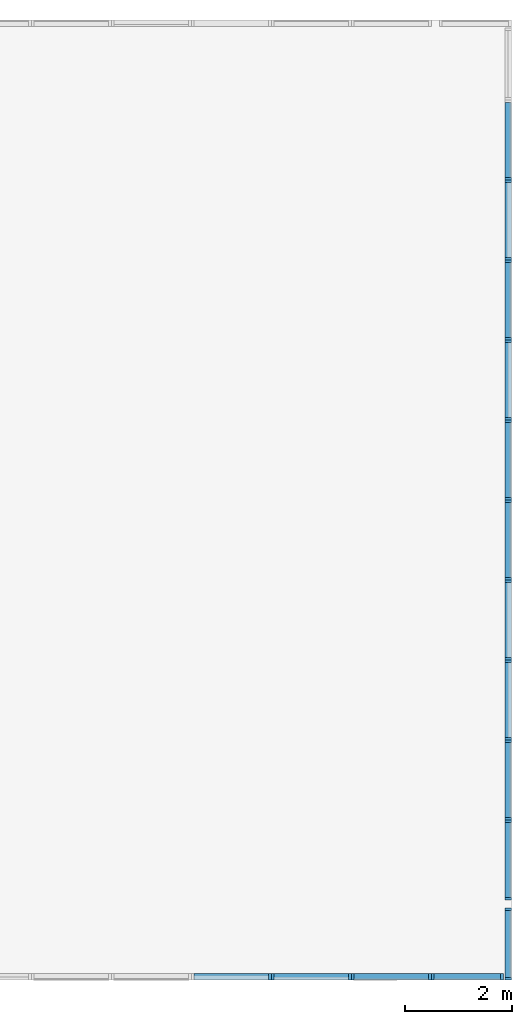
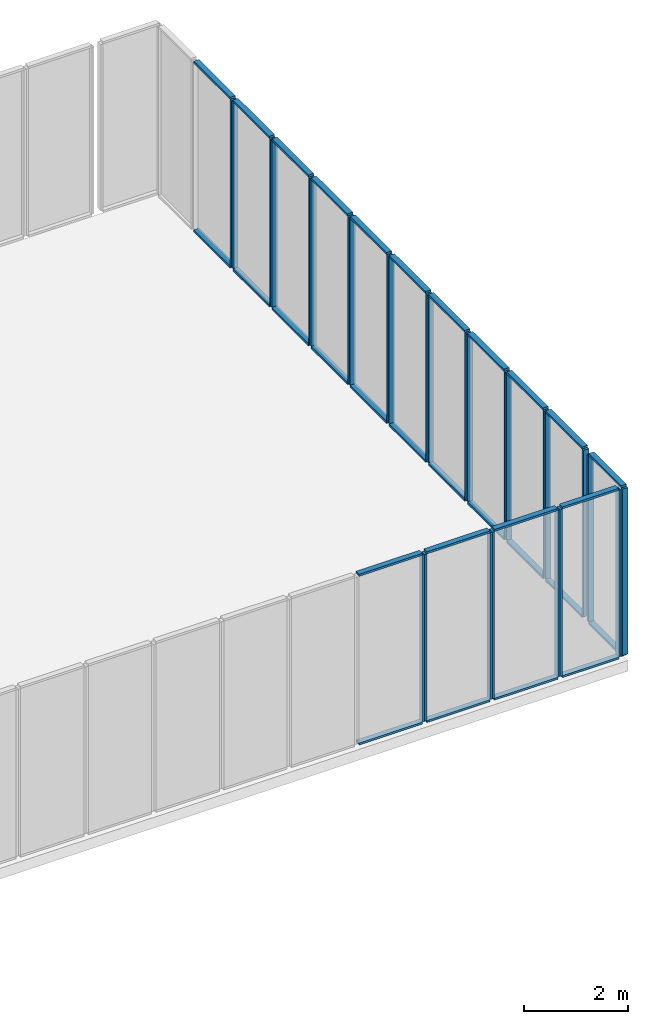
# One storey, part 2 of 4: 58 members.
"""IFC4 building model written with IfcOpenShell, lengths in metres."""

from ifc_helpers import new_model, si_unit, frame, origin_with_axes, place, context, subcontext, project, spatial, indexed_curve, outline, extrude, material, element, save


model = new_model("IFC4")

# Units and contexts
model_context = context("Model", 3, precision=1e-05, world=origin_with_axes())
body_context = subcontext(model_context, "Body", "Model", "MODEL_VIEW")
ifc_project = project(units=[si_unit("AREAUNIT", "SQUARE_METRE"), si_unit("VOLUMEUNIT", "CUBIC_METRE"), si_unit("LENGTHUNIT", "METRE")], contexts=[model_context])

# Site, building, storey
site = spatial("IfcSite", under=ifc_project, Name="Synthetic Site")
building = spatial("IfcBuilding", under=site, Name="Complex Tower")
storey_placement = place(None, frame((0.0, 0.0, 8.4), z_axis=(0.0, 0.0, 1.0), x_axis=(1.0, 0.0, 0.0)))
storey = spatial("IfcBuildingStorey", under=building, at=storey_placement, Name="L03", Elevation=8.4)

# Members
ifc_material = material(Name="Aluminium")
member_1_placement = place(storey_placement, frame((22.45, 0.0, 0.15000000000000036), z_axis=(0.0, 0.0, 1.0), x_axis=(1.0, 0.0, 0.0)))
element("IfcMember", 1, at=member_1_placement, inside=storey, material=ifc_material, Name="CT-L03-S-015-MR", PredefinedType="MULLION", context=body_context, shape_type="SweptSolid", body=[
    extrude(outline(indexed_curve([(0.0, 0.0), (0.0, 0.12), (0.05, 0.12), (0.05, 0.0), (0.0, 0.0)], self_intersect=False)), origin_with_axes(), (0.0, 0.0, 1.0), 3.9000000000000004),
])
for number, where, z_axis, x_axis, name in (
    (2, (21.05, 0.0, 0.09999999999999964), (0.0, 0.0, 1.0), (1.0, 0.0, 0.0), "CT-L03-S-015-FB"),
    (3, (21.05, 0.0, 4.050000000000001), (0.0, 0.0, 1.0), (1.0, 0.0, 0.0), "CT-L03-S-015-FT"),
):
    element("IfcMember", number, at=place(storey_placement, frame(where, z_axis=z_axis, x_axis=x_axis)), inside=storey, material=ifc_material, Name=name, PredefinedType="MULLION", context=body_context, shape_type="SweptSolid", body=[
        extrude(outline(indexed_curve([(0.0, 0.0), (0.0, 0.12), (1.4, 0.12), (1.4, 0.0), (0.0, 0.0)], self_intersect=False)), origin_with_axes(), (0.0, 0.0, 1.0), 0.05),
    ])
for number, where, z_axis, x_axis, name in (
    (4, (22.5, 0.0, 0.15000000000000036), (0.0, 0.0, 1.0), (1.0, 0.0, 0.0), "CT-L03-S-016-ML"),
    (5, (23.95, 0.0, 0.15000000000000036), (0.0, 0.0, 1.0), (1.0, 0.0, 0.0), "CT-L03-S-016-MR"),
):
    element("IfcMember", number, at=place(storey_placement, frame(where, z_axis=z_axis, x_axis=x_axis)), inside=storey, material=ifc_material, Name=name, PredefinedType="MULLION", context=body_context, shape_type="SweptSolid", body=[
        extrude(outline(indexed_curve([(0.0, 0.0), (0.0, 0.12), (0.05, 0.12), (0.05, 0.0), (0.0, 0.0)], self_intersect=False)), origin_with_axes(), (0.0, 0.0, 1.0), 3.9000000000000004),
    ])
for number, where, z_axis, x_axis, name in (
    (6, (22.55, 0.0, 0.09999999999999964), (0.0, 0.0, 1.0), (1.0, 0.0, 0.0), "CT-L03-S-016-FB"),
    (7, (22.55, 0.0, 4.050000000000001), (0.0, 0.0, 1.0), (1.0, 0.0, 0.0), "CT-L03-S-016-FT"),
):
    element("IfcMember", number, at=place(storey_placement, frame(where, z_axis=z_axis, x_axis=x_axis)), inside=storey, material=ifc_material, Name=name, PredefinedType="MULLION", context=body_context, shape_type="SweptSolid", body=[
        extrude(outline(indexed_curve([(0.0, 0.0), (0.0, 0.12), (1.4, 0.12), (1.4, 0.0), (0.0, 0.0)], self_intersect=False)), origin_with_axes(), (0.0, 0.0, 1.0), 0.05),
    ])
for number, where, z_axis, x_axis, name in (
    (8, (24.0, 0.0, 0.15000000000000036), (0.0, 0.0, 1.0), (1.0, 0.0, 0.0), "CT-L03-S-017-ML"),
    (9, (25.45, 0.0, 0.15000000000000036), (0.0, 0.0, 1.0), (1.0, 0.0, 0.0), "CT-L03-S-017-MR"),
):
    element("IfcMember", number, at=place(storey_placement, frame(where, z_axis=z_axis, x_axis=x_axis)), inside=storey, material=ifc_material, Name=name, PredefinedType="MULLION", context=body_context, shape_type="SweptSolid", body=[
        extrude(outline(indexed_curve([(0.0, 0.0), (0.0, 0.12), (0.05, 0.12), (0.05, 0.0), (0.0, 0.0)], self_intersect=False)), origin_with_axes(), (0.0, 0.0, 1.0), 3.9000000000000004),
    ])
for number, where, z_axis, x_axis, name in (
    (10, (24.05, 0.0, 0.09999999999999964), (0.0, 0.0, 1.0), (1.0, 0.0, 0.0), "CT-L03-S-017-FB"),
    (11, (24.05, 0.0, 4.050000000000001), (0.0, 0.0, 1.0), (1.0, 0.0, 0.0), "CT-L03-S-017-FT"),
):
    element("IfcMember", number, at=place(storey_placement, frame(where, z_axis=z_axis, x_axis=x_axis)), inside=storey, material=ifc_material, Name=name, PredefinedType="MULLION", context=body_context, shape_type="SweptSolid", body=[
        extrude(outline(indexed_curve([(0.0, 0.0), (0.0, 0.12), (1.4, 0.12), (1.4, 0.0), (0.0, 0.0)], self_intersect=False)), origin_with_axes(), (0.0, 0.0, 1.0), 0.05),
    ])
for number, where, z_axis, x_axis, name in (
    (12, (25.5, 0.0, 0.15000000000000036), (0.0, 0.0, 1.0), (1.0, 0.0, 0.0), "CT-L03-S-018-ML"),
    (13, (26.8, 0.0, 0.15000000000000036), (0.0, 0.0, 1.0), (1.0, 0.0, 0.0), "CT-L03-S-018-MR"),
):
    element("IfcMember", number, at=place(storey_placement, frame(where, z_axis=z_axis, x_axis=x_axis)), inside=storey, material=ifc_material, Name=name, PredefinedType="MULLION", context=body_context, shape_type="SweptSolid", body=[
        extrude(outline(indexed_curve([(0.0, 0.0), (0.0, 0.12), (0.05, 0.12), (0.05, 0.0), (0.0, 0.0)], self_intersect=False)), origin_with_axes(), (0.0, 0.0, 1.0), 3.9000000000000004),
    ])
for number, where, z_axis, x_axis, name in (
    (14, (25.55, 0.0, 0.09999999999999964), (0.0, 0.0, 1.0), (1.0, 0.0, 0.0), "CT-L03-S-018-FB"),
    (15, (25.55, 0.0, 4.050000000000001), (0.0, 0.0, 1.0), (1.0, 0.0, 0.0), "CT-L03-S-018-FT"),
):
    element("IfcMember", number, at=place(storey_placement, frame(where, z_axis=z_axis, x_axis=x_axis)), inside=storey, material=ifc_material, Name=name, PredefinedType="MULLION", context=body_context, shape_type="SweptSolid", body=[
        extrude(outline(indexed_curve([(0.0, 0.0), (0.0, 0.12), (1.25, 0.12), (1.25, 0.0), (0.0, 0.0)], self_intersect=False)), origin_with_axes(), (0.0, 0.0, 1.0), 0.05),
    ])
for number, where, z_axis, x_axis, name in (
    (16, (27.0, 0.0, 0.15000000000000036), (0.0, 0.0, 1.0), (6.123233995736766e-17, 1.0, 0.0), "CT-L03-E-001-ML"),
    (17, (27.0, 1.3, 0.15000000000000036), (0.0, 0.0, 1.0), (6.123233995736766e-17, 1.0, 0.0), "CT-L03-E-001-MR"),
):
    element("IfcMember", number, at=place(storey_placement, frame(where, z_axis=z_axis, x_axis=x_axis)), inside=storey, material=ifc_material, Name=name, PredefinedType="MULLION", context=body_context, shape_type="SweptSolid", body=[
        extrude(outline(indexed_curve([(0.0, 0.0), (0.0, 0.12), (0.05, 0.12), (0.05, 0.0), (0.0, 0.0)], self_intersect=False)), origin_with_axes(), (0.0, 0.0, 1.0), 3.9000000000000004),
    ])
for number, where, z_axis, x_axis, name in (
    (18, (27.0, 0.05, 0.09999999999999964), (0.0, 0.0, 1.0), (6.123233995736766e-17, 1.0, 0.0), "CT-L03-E-001-FB"),
    (19, (27.0, 0.05, 4.050000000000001), (0.0, 0.0, 1.0), (6.123233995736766e-17, 1.0, 0.0), "CT-L03-E-001-FT"),
):
    element("IfcMember", number, at=place(storey_placement, frame(where, z_axis=z_axis, x_axis=x_axis)), inside=storey, material=ifc_material, Name=name, PredefinedType="MULLION", context=body_context, shape_type="SweptSolid", body=[
        extrude(outline(indexed_curve([(0.0, 0.0), (0.0, 0.12), (1.25, 0.12), (1.25, 0.0), (0.0, 0.0)], self_intersect=False)), origin_with_axes(), (0.0, 0.0, 1.0), 0.05),
    ])
for number, where, z_axis, x_axis, name in (
    (20, (27.0, 1.5, 0.15000000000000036), (0.0, 0.0, 1.0), (6.123233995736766e-17, 1.0, 0.0), "CT-L03-E-002-ML"),
    (21, (27.0, 2.95, 0.15000000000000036), (0.0, 0.0, 1.0), (6.123233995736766e-17, 1.0, 0.0), "CT-L03-E-002-MR"),
):
    element("IfcMember", number, at=place(storey_placement, frame(where, z_axis=z_axis, x_axis=x_axis)), inside=storey, material=ifc_material, Name=name, PredefinedType="MULLION", context=body_context, shape_type="SweptSolid", body=[
        extrude(outline(indexed_curve([(0.0, 0.0), (0.0, 0.12), (0.05, 0.12), (0.05, 0.0), (0.0, 0.0)], self_intersect=False)), origin_with_axes(), (0.0, 0.0, 1.0), 3.9000000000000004),
    ])
for number, where, z_axis, x_axis, name in (
    (22, (27.0, 1.55, 0.09999999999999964), (0.0, 0.0, 1.0), (6.123233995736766e-17, 1.0, 0.0), "CT-L03-E-002-FB"),
    (23, (27.0, 1.55, 4.050000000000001), (0.0, 0.0, 1.0), (6.123233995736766e-17, 1.0, 0.0), "CT-L03-E-002-FT"),
):
    element("IfcMember", number, at=place(storey_placement, frame(where, z_axis=z_axis, x_axis=x_axis)), inside=storey, material=ifc_material, Name=name, PredefinedType="MULLION", context=body_context, shape_type="SweptSolid", body=[
        extrude(outline(indexed_curve([(0.0, 0.0), (0.0, 0.12), (1.4, 0.12), (1.4, 0.0), (0.0, 0.0)], self_intersect=False)), origin_with_axes(), (0.0, 0.0, 1.0), 0.05),
    ])
for number, where, z_axis, x_axis, name in (
    (24, (27.0, 3.0, 0.15000000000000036), (0.0, 0.0, 1.0), (6.123233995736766e-17, 1.0, 0.0), "CT-L03-E-003-ML"),
    (25, (27.0, 4.449999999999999, 0.15000000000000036), (0.0, 0.0, 1.0), (6.123233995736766e-17, 1.0, 0.0), "CT-L03-E-003-MR"),
):
    element("IfcMember", number, at=place(storey_placement, frame(where, z_axis=z_axis, x_axis=x_axis)), inside=storey, material=ifc_material, Name=name, PredefinedType="MULLION", context=body_context, shape_type="SweptSolid", body=[
        extrude(outline(indexed_curve([(0.0, 0.0), (0.0, 0.12), (0.05, 0.12), (0.05, 0.0), (0.0, 0.0)], self_intersect=False)), origin_with_axes(), (0.0, 0.0, 1.0), 3.9000000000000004),
    ])
for number, where, z_axis, x_axis, name in (
    (26, (27.0, 3.05, 0.09999999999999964), (0.0, 0.0, 1.0), (6.123233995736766e-17, 1.0, 0.0), "CT-L03-E-003-FB"),
    (27, (27.0, 3.05, 4.050000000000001), (0.0, 0.0, 1.0), (6.123233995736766e-17, 1.0, 0.0), "CT-L03-E-003-FT"),
):
    element("IfcMember", number, at=place(storey_placement, frame(where, z_axis=z_axis, x_axis=x_axis)), inside=storey, material=ifc_material, Name=name, PredefinedType="MULLION", context=body_context, shape_type="SweptSolid", body=[
        extrude(outline(indexed_curve([(0.0, 0.0), (0.0, 0.12), (1.4, 0.12), (1.4, 0.0), (0.0, 0.0)], self_intersect=False)), origin_with_axes(), (0.0, 0.0, 1.0), 0.05),
    ])
for number, where, z_axis, x_axis, name in (
    (28, (27.0, 4.5, 0.15000000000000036), (0.0, 0.0, 1.0), (6.123233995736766e-17, 1.0, 0.0), "CT-L03-E-004-ML"),
    (29, (27.0, 5.949999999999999, 0.15000000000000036), (0.0, 0.0, 1.0), (6.123233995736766e-17, 1.0, 0.0), "CT-L03-E-004-MR"),
):
    element("IfcMember", number, at=place(storey_placement, frame(where, z_axis=z_axis, x_axis=x_axis)), inside=storey, material=ifc_material, Name=name, PredefinedType="MULLION", context=body_context, shape_type="SweptSolid", body=[
        extrude(outline(indexed_curve([(0.0, 0.0), (0.0, 0.12), (0.05, 0.12), (0.05, 0.0), (0.0, 0.0)], self_intersect=False)), origin_with_axes(), (0.0, 0.0, 1.0), 3.9000000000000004),
    ])
for number, where, z_axis, x_axis, name in (
    (30, (27.0, 4.55, 0.09999999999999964), (0.0, 0.0, 1.0), (6.123233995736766e-17, 1.0, 0.0), "CT-L03-E-004-FB"),
    (31, (27.0, 4.55, 4.050000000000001), (0.0, 0.0, 1.0), (6.123233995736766e-17, 1.0, 0.0), "CT-L03-E-004-FT"),
):
    element("IfcMember", number, at=place(storey_placement, frame(where, z_axis=z_axis, x_axis=x_axis)), inside=storey, material=ifc_material, Name=name, PredefinedType="MULLION", context=body_context, shape_type="SweptSolid", body=[
        extrude(outline(indexed_curve([(0.0, 0.0), (0.0, 0.12), (1.4, 0.12), (1.4, 0.0), (0.0, 0.0)], self_intersect=False)), origin_with_axes(), (0.0, 0.0, 1.0), 0.05),
    ])
for number, where, z_axis, x_axis, name in (
    (32, (27.0, 6.0, 0.15000000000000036), (0.0, 0.0, 1.0), (6.123233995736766e-17, 1.0, 0.0), "CT-L03-E-005-ML"),
    (33, (27.0, 7.449999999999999, 0.15000000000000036), (0.0, 0.0, 1.0), (6.123233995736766e-17, 1.0, 0.0), "CT-L03-E-005-MR"),
):
    element("IfcMember", number, at=place(storey_placement, frame(where, z_axis=z_axis, x_axis=x_axis)), inside=storey, material=ifc_material, Name=name, PredefinedType="MULLION", context=body_context, shape_type="SweptSolid", body=[
        extrude(outline(indexed_curve([(0.0, 0.0), (0.0, 0.12), (0.05, 0.12), (0.05, 0.0), (0.0, 0.0)], self_intersect=False)), origin_with_axes(), (0.0, 0.0, 1.0), 3.9000000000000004),
    ])
for number, where, z_axis, x_axis, name in (
    (34, (27.0, 6.05, 0.09999999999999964), (0.0, 0.0, 1.0), (6.123233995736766e-17, 1.0, 0.0), "CT-L03-E-005-FB"),
    (35, (27.0, 6.05, 4.050000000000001), (0.0, 0.0, 1.0), (6.123233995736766e-17, 1.0, 0.0), "CT-L03-E-005-FT"),
):
    element("IfcMember", number, at=place(storey_placement, frame(where, z_axis=z_axis, x_axis=x_axis)), inside=storey, material=ifc_material, Name=name, PredefinedType="MULLION", context=body_context, shape_type="SweptSolid", body=[
        extrude(outline(indexed_curve([(0.0, 0.0), (0.0, 0.12), (1.4, 0.12), (1.4, 0.0), (0.0, 0.0)], self_intersect=False)), origin_with_axes(), (0.0, 0.0, 1.0), 0.05),
    ])
for number, where, z_axis, x_axis, name in (
    (36, (27.0, 7.5, 0.15000000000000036), (0.0, 0.0, 1.0), (6.123233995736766e-17, 1.0, 0.0), "CT-L03-E-006-ML"),
    (37, (27.0, 8.95, 0.15000000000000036), (0.0, 0.0, 1.0), (6.123233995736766e-17, 1.0, 0.0), "CT-L03-E-006-MR"),
):
    element("IfcMember", number, at=place(storey_placement, frame(where, z_axis=z_axis, x_axis=x_axis)), inside=storey, material=ifc_material, Name=name, PredefinedType="MULLION", context=body_context, shape_type="SweptSolid", body=[
        extrude(outline(indexed_curve([(0.0, 0.0), (0.0, 0.12), (0.05, 0.12), (0.05, 0.0), (0.0, 0.0)], self_intersect=False)), origin_with_axes(), (0.0, 0.0, 1.0), 3.9000000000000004),
    ])
for number, where, z_axis, x_axis, name in (
    (38, (27.0, 7.55, 0.09999999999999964), (0.0, 0.0, 1.0), (6.123233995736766e-17, 1.0, 0.0), "CT-L03-E-006-FB"),
    (39, (27.0, 7.55, 4.050000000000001), (0.0, 0.0, 1.0), (6.123233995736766e-17, 1.0, 0.0), "CT-L03-E-006-FT"),
):
    element("IfcMember", number, at=place(storey_placement, frame(where, z_axis=z_axis, x_axis=x_axis)), inside=storey, material=ifc_material, Name=name, PredefinedType="MULLION", context=body_context, shape_type="SweptSolid", body=[
        extrude(outline(indexed_curve([(0.0, 0.0), (0.0, 0.12), (1.4, 0.12), (1.4, 0.0), (0.0, 0.0)], self_intersect=False)), origin_with_axes(), (0.0, 0.0, 1.0), 0.05),
    ])
for number, where, z_axis, x_axis, name in (
    (40, (27.0, 9.0, 0.15000000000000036), (0.0, 0.0, 1.0), (6.123233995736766e-17, 1.0, 0.0), "CT-L03-E-007-ML"),
    (41, (27.0, 10.450000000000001, 0.15000000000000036), (0.0, 0.0, 1.0), (6.123233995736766e-17, 1.0, 0.0), "CT-L03-E-007-MR"),
):
    element("IfcMember", number, at=place(storey_placement, frame(where, z_axis=z_axis, x_axis=x_axis)), inside=storey, material=ifc_material, Name=name, PredefinedType="MULLION", context=body_context, shape_type="SweptSolid", body=[
        extrude(outline(indexed_curve([(0.0, 0.0), (0.0, 0.12), (0.05, 0.12), (0.05, 0.0), (0.0, 0.0)], self_intersect=False)), origin_with_axes(), (0.0, 0.0, 1.0), 3.9000000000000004),
    ])
for number, where, z_axis, x_axis, name in (
    (42, (27.0, 9.05, 0.09999999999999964), (0.0, 0.0, 1.0), (6.123233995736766e-17, 1.0, 0.0), "CT-L03-E-007-FB"),
    (43, (27.0, 9.05, 4.050000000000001), (0.0, 0.0, 1.0), (6.123233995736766e-17, 1.0, 0.0), "CT-L03-E-007-FT"),
):
    element("IfcMember", number, at=place(storey_placement, frame(where, z_axis=z_axis, x_axis=x_axis)), inside=storey, material=ifc_material, Name=name, PredefinedType="MULLION", context=body_context, shape_type="SweptSolid", body=[
        extrude(outline(indexed_curve([(0.0, 0.0), (0.0, 0.12), (1.4, 0.12), (1.4, 0.0), (0.0, 0.0)], self_intersect=False)), origin_with_axes(), (0.0, 0.0, 1.0), 0.05),
    ])
for number, where, z_axis, x_axis, name in (
    (44, (27.0, 10.5, 0.15000000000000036), (0.0, 0.0, 1.0), (6.123233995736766e-17, 1.0, 0.0), "CT-L03-E-008-ML"),
    (45, (27.0, 11.950000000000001, 0.15000000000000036), (0.0, 0.0, 1.0), (6.123233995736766e-17, 1.0, 0.0), "CT-L03-E-008-MR"),
):
    element("IfcMember", number, at=place(storey_placement, frame(where, z_axis=z_axis, x_axis=x_axis)), inside=storey, material=ifc_material, Name=name, PredefinedType="MULLION", context=body_context, shape_type="SweptSolid", body=[
        extrude(outline(indexed_curve([(0.0, 0.0), (0.0, 0.12), (0.05, 0.12), (0.05, 0.0), (0.0, 0.0)], self_intersect=False)), origin_with_axes(), (0.0, 0.0, 1.0), 3.9000000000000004),
    ])
for number, where, z_axis, x_axis, name in (
    (46, (27.0, 10.55, 0.09999999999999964), (0.0, 0.0, 1.0), (6.123233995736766e-17, 1.0, 0.0), "CT-L03-E-008-FB"),
    (47, (27.0, 10.55, 4.050000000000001), (0.0, 0.0, 1.0), (6.123233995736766e-17, 1.0, 0.0), "CT-L03-E-008-FT"),
):
    element("IfcMember", number, at=place(storey_placement, frame(where, z_axis=z_axis, x_axis=x_axis)), inside=storey, material=ifc_material, Name=name, PredefinedType="MULLION", context=body_context, shape_type="SweptSolid", body=[
        extrude(outline(indexed_curve([(0.0, 0.0), (0.0, 0.12), (1.4, 0.12), (1.4, 0.0), (0.0, 0.0)], self_intersect=False)), origin_with_axes(), (0.0, 0.0, 1.0), 0.05),
    ])
for number, where, z_axis, x_axis, name in (
    (48, (27.0, 12.0, 0.15000000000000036), (0.0, 0.0, 1.0), (6.123233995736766e-17, 1.0, 0.0), "CT-L03-E-009-ML"),
    (49, (27.0, 13.450000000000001, 0.15000000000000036), (0.0, 0.0, 1.0), (6.123233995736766e-17, 1.0, 0.0), "CT-L03-E-009-MR"),
):
    element("IfcMember", number, at=place(storey_placement, frame(where, z_axis=z_axis, x_axis=x_axis)), inside=storey, material=ifc_material, Name=name, PredefinedType="MULLION", context=body_context, shape_type="SweptSolid", body=[
        extrude(outline(indexed_curve([(0.0, 0.0), (0.0, 0.12), (0.05, 0.12), (0.05, 0.0), (0.0, 0.0)], self_intersect=False)), origin_with_axes(), (0.0, 0.0, 1.0), 3.9000000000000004),
    ])
for number, where, z_axis, x_axis, name in (
    (50, (27.0, 12.05, 0.09999999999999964), (0.0, 0.0, 1.0), (6.123233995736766e-17, 1.0, 0.0), "CT-L03-E-009-FB"),
    (51, (27.0, 12.05, 4.050000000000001), (0.0, 0.0, 1.0), (6.123233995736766e-17, 1.0, 0.0), "CT-L03-E-009-FT"),
):
    element("IfcMember", number, at=place(storey_placement, frame(where, z_axis=z_axis, x_axis=x_axis)), inside=storey, material=ifc_material, Name=name, PredefinedType="MULLION", context=body_context, shape_type="SweptSolid", body=[
        extrude(outline(indexed_curve([(0.0, 0.0), (0.0, 0.12), (1.4, 0.12), (1.4, 0.0), (0.0, 0.0)], self_intersect=False)), origin_with_axes(), (0.0, 0.0, 1.0), 0.05),
    ])
for number, where, z_axis, x_axis, name in (
    (52, (27.0, 13.5, 0.15000000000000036), (0.0, 0.0, 1.0), (6.123233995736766e-17, 1.0, 0.0), "CT-L03-E-010-ML"),
    (53, (27.0, 14.950000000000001, 0.15000000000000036), (0.0, 0.0, 1.0), (6.123233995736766e-17, 1.0, 0.0), "CT-L03-E-010-MR"),
):
    element("IfcMember", number, at=place(storey_placement, frame(where, z_axis=z_axis, x_axis=x_axis)), inside=storey, material=ifc_material, Name=name, PredefinedType="MULLION", context=body_context, shape_type="SweptSolid", body=[
        extrude(outline(indexed_curve([(0.0, 0.0), (0.0, 0.12), (0.05, 0.12), (0.05, 0.0), (0.0, 0.0)], self_intersect=False)), origin_with_axes(), (0.0, 0.0, 1.0), 3.9000000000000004),
    ])
for number, where, z_axis, x_axis, name in (
    (54, (27.0, 13.55, 0.09999999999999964), (0.0, 0.0, 1.0), (6.123233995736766e-17, 1.0, 0.0), "CT-L03-E-010-FB"),
    (55, (27.0, 13.55, 4.050000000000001), (0.0, 0.0, 1.0), (6.123233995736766e-17, 1.0, 0.0), "CT-L03-E-010-FT"),
):
    element("IfcMember", number, at=place(storey_placement, frame(where, z_axis=z_axis, x_axis=x_axis)), inside=storey, material=ifc_material, Name=name, PredefinedType="MULLION", context=body_context, shape_type="SweptSolid", body=[
        extrude(outline(indexed_curve([(0.0, 0.0), (0.0, 0.12), (1.4, 0.12), (1.4, 0.0), (0.0, 0.0)], self_intersect=False)), origin_with_axes(), (0.0, 0.0, 1.0), 0.05),
    ])
member_2_placement = place(storey_placement, frame((27.0, 15.0, 0.15000000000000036), z_axis=(0.0, 0.0, 1.0), x_axis=(6.123233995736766e-17, 1.0, 0.0)))
element("IfcMember", 56, at=member_2_placement, inside=storey, material=ifc_material, Name="CT-L03-E-011-ML", PredefinedType="MULLION", context=body_context, shape_type="SweptSolid", body=[
    extrude(outline(indexed_curve([(0.0, 0.0), (0.0, 0.12), (0.05, 0.12), (0.05, 0.0), (0.0, 0.0)], self_intersect=False)), origin_with_axes(), (0.0, 0.0, 1.0), 3.9000000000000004),
])
for number, where, z_axis, x_axis, name in (
    (57, (27.0, 15.05, 0.09999999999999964), (0.0, 0.0, 1.0), (6.123233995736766e-17, 1.0, 0.0), "CT-L03-E-011-FB"),
    (58, (27.0, 15.05, 4.050000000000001), (0.0, 0.0, 1.0), (6.123233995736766e-17, 1.0, 0.0), "CT-L03-E-011-FT"),
):
    element("IfcMember", number, at=place(storey_placement, frame(where, z_axis=z_axis, x_axis=x_axis)), inside=storey, material=ifc_material, Name=name, PredefinedType="MULLION", context=body_context, shape_type="SweptSolid", body=[
        extrude(outline(indexed_curve([(0.0, 0.0), (0.0, 0.12), (1.4, 0.12), (1.4, 0.0), (0.0, 0.0)], self_intersect=False)), origin_with_axes(), (0.0, 0.0, 1.0), 0.05),
    ])

save(model, "model.ifc")
